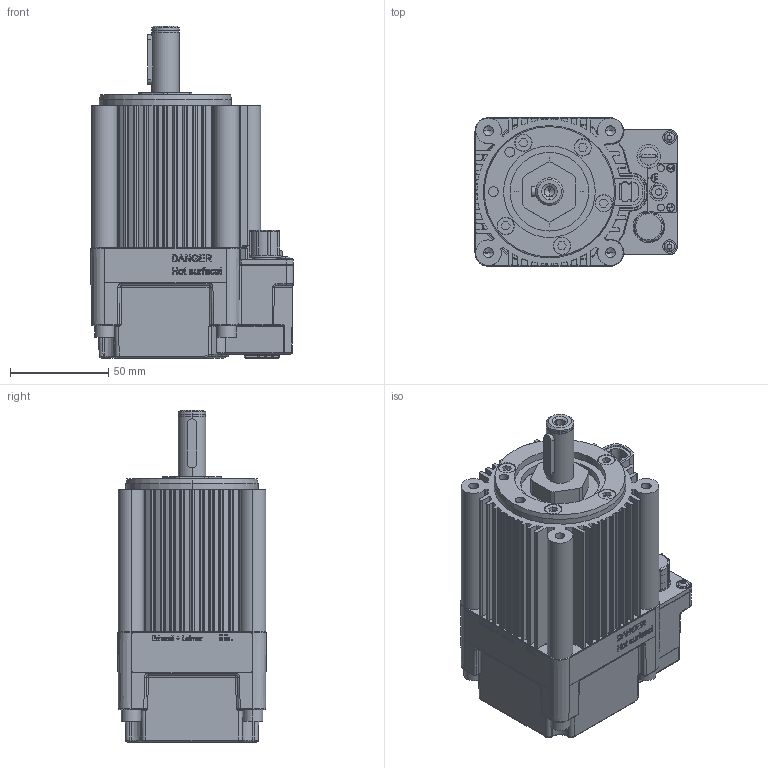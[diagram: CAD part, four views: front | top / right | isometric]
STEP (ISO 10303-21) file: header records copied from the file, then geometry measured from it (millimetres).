
FILE_DESCRIPTION (( 'STEP AP214' ), '1' );
FILE_NAME ('AD 1103.STEP', '2022-03-10T09:48:56', ( '' ), ( '' ), 'SwSTEP 2.0', 'SolidWorks 2019', '' );
FILE_SCHEMA (( 'AUTOMOTIVE_DESIGN' ));
Length unit declared in the file: millimetre
Products named in the file (1): AD 1103
Bounding box: 103.02 x 75.99 x 168.8 mm (x, y, z)
Volume: 743749.4 mm3; surface area: 168186.4 mm2
Topology: 41 solids, 50 shells, 2009 faces, 5585 edges, 3760 vertices
Faces by surface type: plane 745, cylinder 738, cone 227, torus 131, bspline 118, sphere 50
Entity records: 93529 total; most frequent: CARTESIAN_POINT 19661, ORIENTED_EDGE 10888, DIRECTION 10639, EDGE_CURVE 5444, AXIS2_PLACEMENT_3D 3913, VERTEX_POINT 3712, VECTOR 2813, LINE 2813
